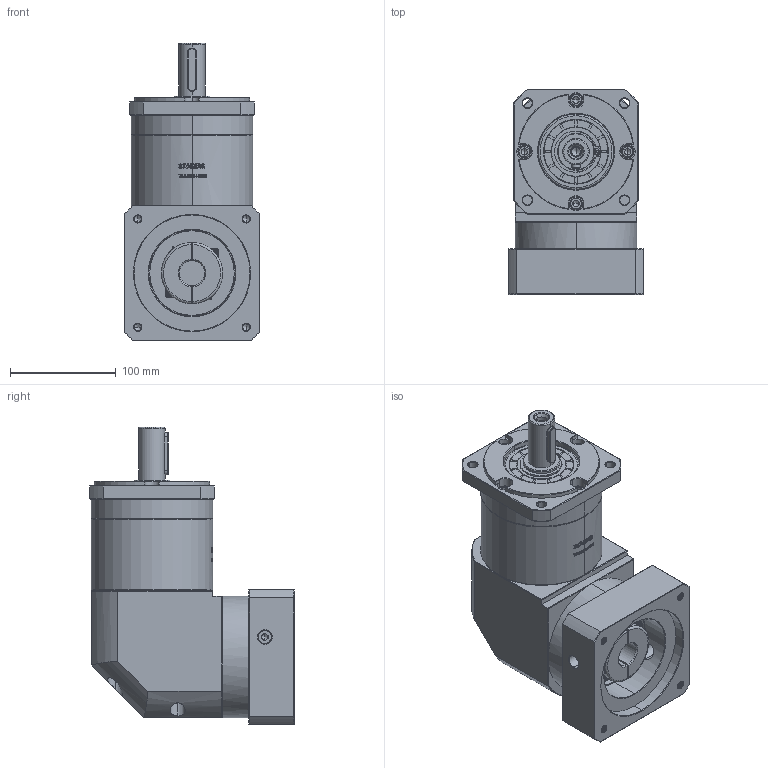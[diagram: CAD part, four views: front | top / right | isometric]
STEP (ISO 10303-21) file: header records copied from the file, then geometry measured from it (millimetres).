
FILE_DESCRIPTION (( 'STEP AP214' ), '1' );
FILE_NAME ('ZFR120A-D25-L2-24-110-145-M8.step', '2023-03-08T08:20:51', ( '' ), ( '' ), 'SwSTEP 2.0', 'SolidWorks 2016', '' );
FILE_SCHEMA (( 'AUTOMOTIVE_DESIGN' ));
Length unit declared in the file: millimetre
Products named in the file (1): ZFR120A-D25-L2-24-110-145-M8
Bounding box: 128 x 193.9 x 281.5 mm (x, y, z)
Volume: 3271078.5 mm3; surface area: 261648.6 mm2
Topology: 6 solids, 6 shells, 2870 faces, 7678 edges, 4953 vertices
Faces by surface type: plane 1484, bspline 606, cylinder 434, cone 338, torus 8
Entity records: 157839 total; most frequent: CARTESIAN_POINT 60442, ORIENTED_EDGE 15296, DIRECTION 11128, EDGE_CURVE 7648, VERTEX_POINT 4953, LINE 4750, VECTOR 4750, AXIS2_PLACEMENT_3D 3189
